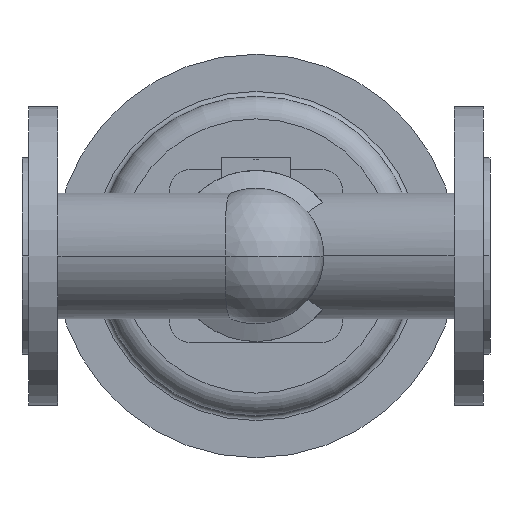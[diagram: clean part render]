
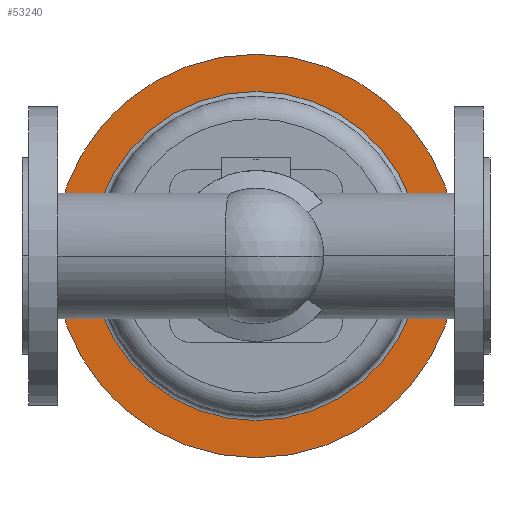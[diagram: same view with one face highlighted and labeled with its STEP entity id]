
A CAD part, front view. The second image highlights one B-rep face of the part: STEP entity #53240.
In plain terms, the highlighted planar face has unit normal (0, -1, 0).
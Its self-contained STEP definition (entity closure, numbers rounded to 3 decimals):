
#38280=CARTESIAN_POINT('',(20.,409.,0.));
#38290=VERTEX_POINT('',#38280);
#38450=CARTESIAN_POINT('',(270.,409.,0.));
#38460=VERTEX_POINT('',#38450);
#38490=CARTESIAN_POINT('',(145.,409.,0.));
#38500=DIRECTION('',(0.,1.,0.));
#38510=DIRECTION('',(1.,0.,0.));
#38520=AXIS2_PLACEMENT_3D('',#38490,#38500,#38510);
#38530=CIRCLE('',#38520,125.);
#38540=EDGE_CURVE('',#38290,#38460,#38530,.T.);
#38710=CARTESIAN_POINT('',(247.,409.,0.));
#38720=VERTEX_POINT('',#38710);
#38750=CARTESIAN_POINT('',(145.,409.,0.));
#38760=DIRECTION('',(0.,1.,0.));
#38770=DIRECTION('',(1.,0.,0.));
#38780=AXIS2_PLACEMENT_3D('',#38750,#38760,#38770);
#38790=CIRCLE('',#38780,102.);
#38800=CARTESIAN_POINT('',(145.,409.,-102.));
#38810=VERTEX_POINT('',#38800);
#38820=EDGE_CURVE('',#38720,#38810,#38790,.T.);
#38840=CARTESIAN_POINT('',(43.,409.,0.));
#38850=VERTEX_POINT('',#38840);
#38860=EDGE_CURVE('',#38810,#38850,#38790,.T.);
#53080=CARTESIAN_POINT('',(258.5,409.,0.));
#53090=DIRECTION('',(0.,-1.,0.));
#53100=DIRECTION('',(-1.,0.,0.));
#53110=AXIS2_PLACEMENT_3D('',#53080,#53090,#53100);
#53120=PLANE('',#53110);
#53130=EDGE_CURVE('',#38460,#38290,#38530,.T.);
#53140=ORIENTED_EDGE('',*,*,#53130,.F.);
#53150=ORIENTED_EDGE('',*,*,#38540,.F.);
#53160=EDGE_LOOP('',(#53150,#53140));
#53170=FACE_OUTER_BOUND('',#53160,.T.);
#53180=EDGE_CURVE('',#38850,#38720,#38790,.T.);
#53190=ORIENTED_EDGE('',*,*,#53180,.T.);
#53200=ORIENTED_EDGE('',*,*,#38860,.T.);
#53210=ORIENTED_EDGE('',*,*,#38820,.T.);
#53220=EDGE_LOOP('',(#53210,#53200,#53190));
#53230=FACE_BOUND('',#53220,.T.);
#53240=ADVANCED_FACE('',(#53170,#53230),#53120,.T.);
